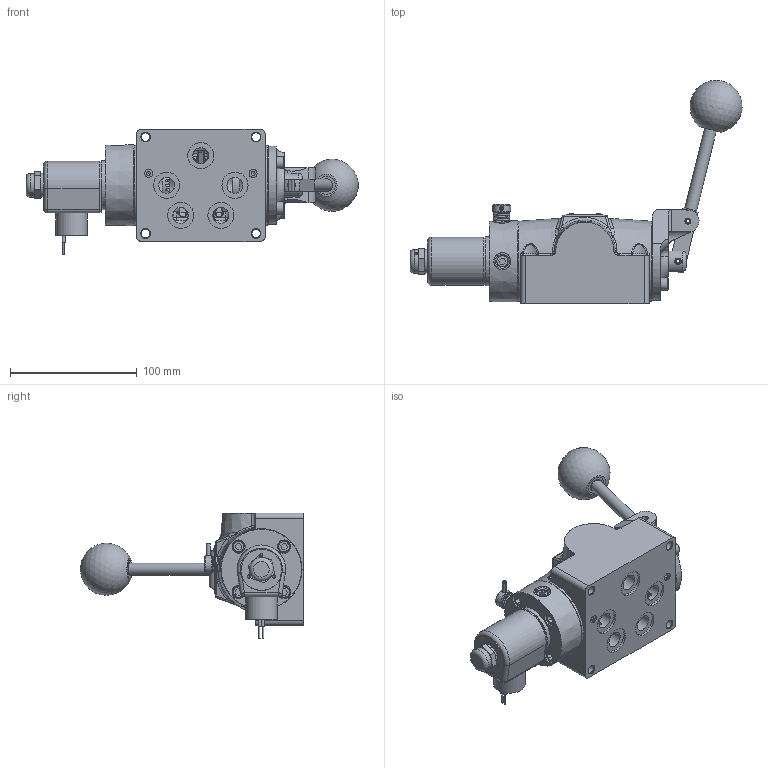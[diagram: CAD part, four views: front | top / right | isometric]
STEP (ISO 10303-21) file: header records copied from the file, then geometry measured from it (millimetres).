
FILE_DESCRIPTION(/* description */ (''),/* implementation_level */ '2;1');
FILE_NAME(/* name */ 'D:\Engineering\Product\valves\Assembly\Classic\SAH\stp\SAH4PONL.stp',/* time_stamp */ '2021-05-14T08:06:48-04:00',/* author */ ('RMcKenna'),/* organization */ (''),/* preprocessor_version */ 'ST-DEVELOPER v18.1',/* originating_system */ 'Autodesk Inventor 2021',/* authorisation */ '');
FILE_SCHEMA (('AUTOMOTIVE_DESIGN { 1 0 10303 214 3 1 1 }'));
Products named in the file (1): Part7
Bounding box: 262.36 x 176.33 x 99.51 mm (x, y, z)
Volume: 648390.1 mm3; surface area: 162971.5 mm2
Topology: 1 solids, 29 shells, 1825 faces, 4398 edges, 2750 vertices
Faces by surface type: plane 624, cylinder 354, cone 341, bspline 325, torus 158, sphere 23
Full cylindrical faces by diameter (mm): 1.041 x1, 1.168 x2, 1.321 x2, 1.727 x3, 2.07 x2, 2.261 x2, 2.35 x1, 2.381 x2, 2.54 x2, 2.778 x2, 3.048 x3, 3.175 x7, 3.302 x1, 3.683 x1, 3.962 x1, 4.75 x2, 4.763 x2, 4.978 x8, 5.639 x1, 6.35 x10, 6.629 x6, 6.934 x1, 7.137 x4, 7.144 x8, 8.382 x1, 9.462 x2, 9.474 x4, 9.525 x12, 9.83 x1, 9.906 x2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
Entity records: 69465 total; most frequent: CARTESIAN_POINT 27330, ORIENTED_EDGE 8714, DIRECTION 7686, EDGE_CURVE 4357, AXIS2_PLACEMENT_3D 3061, VERTEX_POINT 2750, EDGE_LOOP 2065, FACE_OUTER_BOUND 1825
